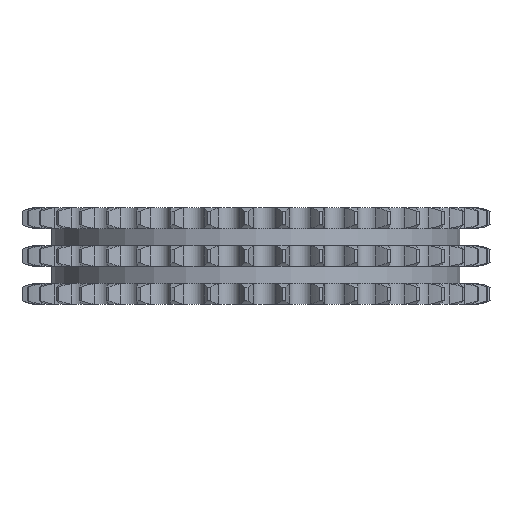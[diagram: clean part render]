
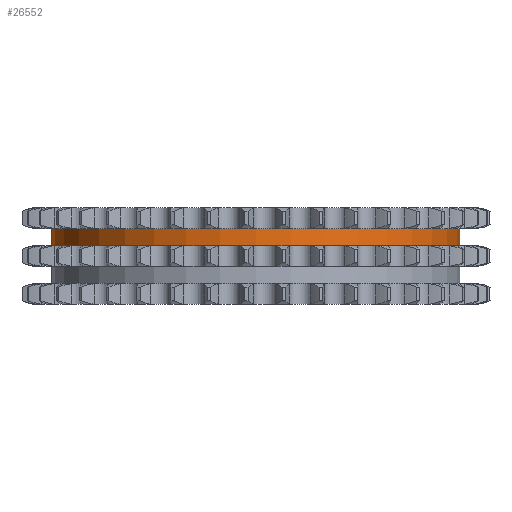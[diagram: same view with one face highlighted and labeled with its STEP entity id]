
A CAD part, left-side view. The second image highlights one B-rep face of the part: STEP entity #26552.
In plain terms, the highlighted cylindrical face has radius 88.644 mm (diameter 177.287 mm), a partial arc.
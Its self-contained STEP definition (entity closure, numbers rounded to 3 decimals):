
#5097=DIRECTION('',(0.,0.,-1.));
#5098=VECTOR('',#5097,7.4);
#5099=CARTESIAN_POINT('',(0.,88.643,11.95));
#5100=LINE('',#5099,#5098);
#5104=CARTESIAN_POINT('',(0.,0.,11.95));
#5105=DIRECTION('',(0.,0.,1.));
#5106=DIRECTION('',(0.,1.,0.));
#5107=AXIS2_PLACEMENT_3D('',#5104,#5105,#5106);
#5112=DIRECTION('',(0.,0.,-1.));
#5113=VECTOR('',#5112,7.4);
#5114=CARTESIAN_POINT('',(0.,-88.643,11.95));
#5115=LINE('',#5114,#5113);
#5119=CARTESIAN_POINT('',(0.,0.,4.55));
#5120=DIRECTION('',(0.,0.,1.));
#5121=DIRECTION('',(0.,1.,0.));
#5122=AXIS2_PLACEMENT_3D('',#5119,#5120,#5121);
#21059=CARTESIAN_POINT('',(0.,88.643,11.95));
#21060=CARTESIAN_POINT('',(0.,88.643,4.55));
#21061=VERTEX_POINT('',#21059);
#21062=VERTEX_POINT('',#21060);
#21063=CARTESIAN_POINT('',(0.,-88.643,11.95));
#21064=CARTESIAN_POINT('',(0.,-88.643,4.55));
#21065=VERTEX_POINT('',#21063);
#21066=VERTEX_POINT('',#21064);
#26540=CARTESIAN_POINT('',(0.,0.,13.145));
#26541=DIRECTION('',(0.,0.,-1.));
#26542=DIRECTION('',(0.,-1.,0.));
#26543=AXIS2_PLACEMENT_3D('',#26540,#26541,#26542);
#26544=CYLINDRICAL_SURFACE('',#26543,88.643);
#26545=ORIENTED_EDGE('',*,*,#26530,.F.);
#26546=ORIENTED_EDGE('',*,*,#26520,.T.);
#26547=ORIENTED_EDGE('',*,*,#26534,.T.);
#26549=ORIENTED_EDGE('',*,*,#26548,.F.);
#26550=EDGE_LOOP('',(#26545,#26546,#26547,#26549));
#26551=FACE_OUTER_BOUND('',#26550,.F.);
#26552=ADVANCED_FACE('',(#26551),#26544,.T.);
#5108=CIRCLE('',#5107,88.643);
#5123=CIRCLE('',#5122,88.643);
#26520=EDGE_CURVE('',#21061,#21065,#5108,.T.);
#26530=EDGE_CURVE('',#21061,#21062,#5100,.T.);
#26534=EDGE_CURVE('',#21065,#21066,#5115,.T.);
#26548=EDGE_CURVE('',#21062,#21066,#5123,.T.);
